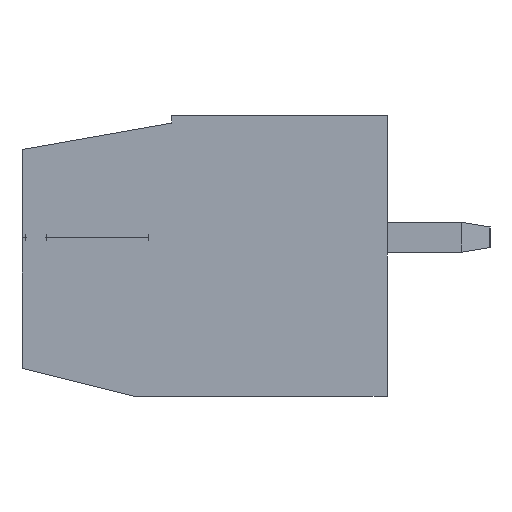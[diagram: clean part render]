
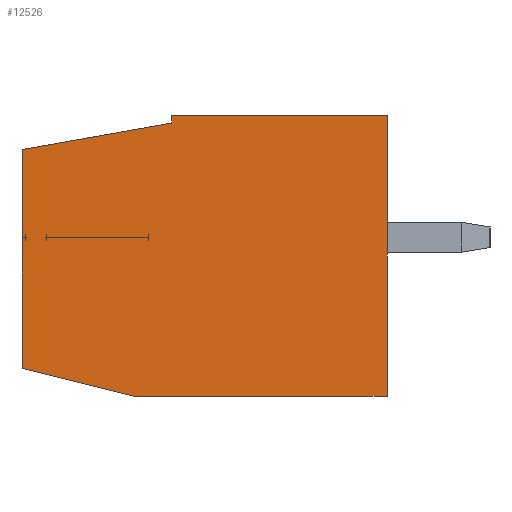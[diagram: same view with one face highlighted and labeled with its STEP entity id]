
A CAD part, left-side view. The second image highlights one B-rep face of the part: STEP entity #12526.
In plain terms, the highlighted planar face has unit normal (-1, 0, 0).
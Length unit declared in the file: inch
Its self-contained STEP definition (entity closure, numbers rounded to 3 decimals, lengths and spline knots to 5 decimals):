
#1=DIRECTION('',(0.,0.,1.));
#2=VECTOR('',#1,0.008);
#3=CARTESIAN_POINT('',(-1.4765,0.,0.122));
#4=LINE('',#3,#2);
#5=DIRECTION('',(0.,-1.,0.));
#6=VECTOR('',#5,0.23);
#7=CARTESIAN_POINT('',(-1.4765,0.,0.13));
#8=LINE('',#7,#6);
#9=DIRECTION('',(0.,0.,-1.));
#10=VECTOR('',#9,0.3);
#11=CARTESIAN_POINT('',(-1.4765,-0.23,0.13));
#12=LINE('',#11,#10);
#13=DIRECTION('',(0.,1.,0.));
#14=VECTOR('',#13,0.27);
#15=CARTESIAN_POINT('',(-1.4765,-0.23,-0.17));
#16=LINE('',#15,#14);
#17=DIRECTION('',(0.,0.97,0.242));
#18=VECTOR('',#17,0.12367);
#19=CARTESIAN_POINT('',(-1.4765,0.04,-0.17));
#20=LINE('',#19,#18);
#21=DIRECTION('',(0.,0.,1.));
#22=VECTOR('',#21,0.23387);
#23=CARTESIAN_POINT('',(-1.4765,0.16,-0.14008));
#24=LINE('',#23,#22);
#25=DIRECTION('',(0.,-0.985,0.174));
#26=VECTOR('',#25,0.16247);
#27=CARTESIAN_POINT('',(-1.4765,0.16,0.09379));
#28=LINE('',#27,#26);
#9865=CARTESIAN_POINT('',(-1.4765,0.,0.122));
#9866=CARTESIAN_POINT('',(-1.4765,0.,0.13));
#9867=VERTEX_POINT('',#9865);
#9868=VERTEX_POINT('',#9866);
#9869=CARTESIAN_POINT('',(-1.4765,-0.23,0.13));
#9870=VERTEX_POINT('',#9869);
#9871=CARTESIAN_POINT('',(-1.4765,-0.23,-0.17));
#9872=VERTEX_POINT('',#9871);
#9873=CARTESIAN_POINT('',(-1.4765,0.04,-0.17));
#9874=VERTEX_POINT('',#9873);
#9875=CARTESIAN_POINT('',(-1.4765,0.16,-0.14008));
#9876=VERTEX_POINT('',#9875);
#9877=CARTESIAN_POINT('',(-1.4765,0.16,0.09379));
#9878=VERTEX_POINT('',#9877);
#12505=CARTESIAN_POINT('',(-1.4765,0.,0.));
#12506=DIRECTION('',(1.,0.,0.));
#12507=DIRECTION('',(0.,0.,-1.));
#12508=AXIS2_PLACEMENT_3D('',#12505,#12506,#12507);
#12509=PLANE('',#12508);
#12511=ORIENTED_EDGE('',*,*,#12510,.T.);
#12513=ORIENTED_EDGE('',*,*,#12512,.T.);
#12515=ORIENTED_EDGE('',*,*,#12514,.T.);
#12517=ORIENTED_EDGE('',*,*,#12516,.T.);
#12519=ORIENTED_EDGE('',*,*,#12518,.T.);
#12521=ORIENTED_EDGE('',*,*,#12520,.T.);
#12523=ORIENTED_EDGE('',*,*,#12522,.T.);
#12524=EDGE_LOOP('',(#12511,#12513,#12515,#12517,#12519,#12521,#12523));
#12525=FACE_OUTER_BOUND('',#12524,.F.);
#12526=ADVANCED_FACE('',(#12525),#12509,.F.);
#12510=EDGE_CURVE('',#9867,#9868,#4,.T.);
#12512=EDGE_CURVE('',#9868,#9870,#8,.T.);
#12514=EDGE_CURVE('',#9870,#9872,#12,.T.);
#12516=EDGE_CURVE('',#9872,#9874,#16,.T.);
#12518=EDGE_CURVE('',#9874,#9876,#20,.T.);
#12520=EDGE_CURVE('',#9876,#9878,#24,.T.);
#12522=EDGE_CURVE('',#9878,#9867,#28,.T.);
